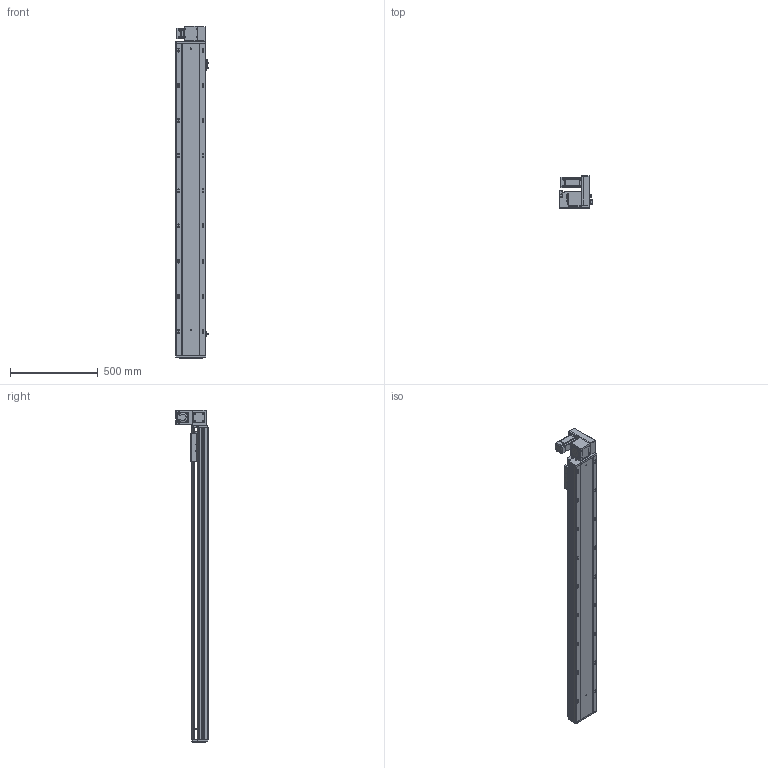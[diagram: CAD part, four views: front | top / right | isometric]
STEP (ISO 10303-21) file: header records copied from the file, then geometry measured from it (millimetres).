
FILE_DESCRIPTION (( 'STEP AP203' ), '1' );
FILE_NAME ('RY170-T-300-UR-P400W.SLDASM_1500.step', '2021-03-01T09:28:21', ( '盈信电脑' ), ( '东莞市道滘镇水果街19号' ), 'SwSTEP 2.0', 'SolidWorks 2012', '' );
FILE_SCHEMA (( 'CONFIG_CONTROL_DESIGN' ));
Products named in the file (18): RY170-T-300-UR-P400W.SLDASM_1500; RY170-T肮祭謫裔啣; 滅袉蝶18-10; 15; RY170-T蹟翐M4; RY170-T肮祭湍揤踡輸2; RY120-T主同步轮轴承压盖; RY170-T肮祭湍揤踡輸1; RY170肮祭謫ヶ裔啣; RY170翋肮祭謫釱; RY170肮祭謫萇儂欶; RY170同步轮电机安装板(400W); RY170-T-300肮祭謫倰第裔啣-DR_1500; RY170綴裔啣; RY170外置感应片(200共用）; 覜茼ん672; RY170-T-300肮祭謫倰第菁釱-DR_1500; RY170肮祭湍臏賑輸
Assembly tree (22 placements, depth 2):
  RY170-T-300-UR-P400W.SLDASM_1500
    RY170-T-300肮祭謫倰第菁釱-DR_1500
    RY170肮祭湍臏賑輸
    RY170-T-300肮祭謫倰第裔啣-DR_1500
    RY170綴裔啣
    覜茼ん672  x3
    RY170外置感应片(200共用）
    RY170肮祭謫ヶ裔啣
    RY170翋肮祭謫釱
    RY170同步轮电机安装板(400W)
    RY170肮祭謫萇儂欶
    RY170-T肮祭湍揤踡輸1  x2
    RY170-T肮祭湍揤踡輸2  x2
    RY120-T主同步轮轴承压盖
    RY170-T肮祭謫裔啣
    RY170-T蹟翐M4
    滅袉蝶18-10  x2
    15
Bounding box: 183.7 x 182 x 1888 mm (x, y, z)
Volume: 9005451.6 mm3; surface area: 3081962.6 mm2
Topology: 22 solids, 22 shells, 2864 faces, 7970 edges, 5095 vertices
Faces by surface type: cylinder 1298, plane 1264, cone 272, bspline 30
Entity records: 85840 total; most frequent: CARTESIAN_POINT 19336, ORIENTED_EDGE 13576, DIRECTION 13342, EDGE_CURVE 6788, AXIS2_PLACEMENT_3D 4711, VERTEX_POINT 4451, LINE 3920, VECTOR 3920
